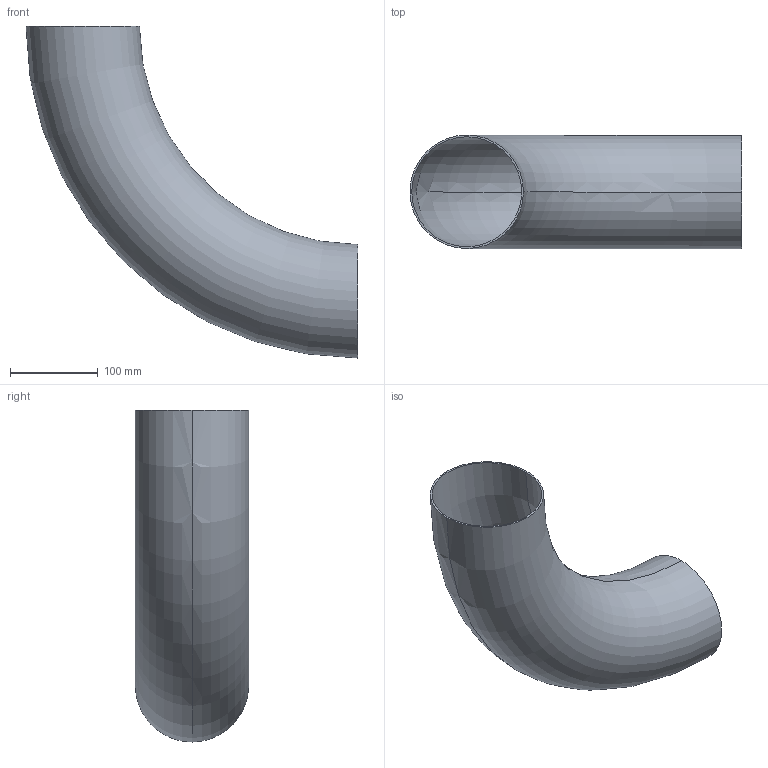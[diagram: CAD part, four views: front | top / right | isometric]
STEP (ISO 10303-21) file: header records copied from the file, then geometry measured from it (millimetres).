
FILE_DESCRIPTION (( 'STEP AP203' ), '1' );
FILE_NAME ('3D_R1655_129x2_17362320.STEP', '2024-08-05T09:21:49', ( '' ), ( '' ), 'SwSTEP 2.0', 'SolidWorks 2024', '' );
FILE_SCHEMA (( 'CONFIG_CONTROL_DESIGN' ));
Length unit declared in the file: millimetre
Products named in the file (1): 3D_R1655_129x2_17362320
Bounding box: 377.5 x 129 x 377.5 mm (x, y, z)
Volume: 392326.6 mm3; surface area: 393922.6 mm2
Topology: 1 solids, 1 shells, 6 faces, 12 edges, 8 vertices
Faces by surface type: torus 4, plane 2
Entity records: 249 total; most frequent: DIRECTION 38, CARTESIAN_POINT 27, ORIENTED_EDGE 24, AXIS2_PLACEMENT_3D 19, EDGE_CURVE 12, CIRCLE 12, PERSON_AND_ORGANIZATION 8, VERTEX_POINT 8
